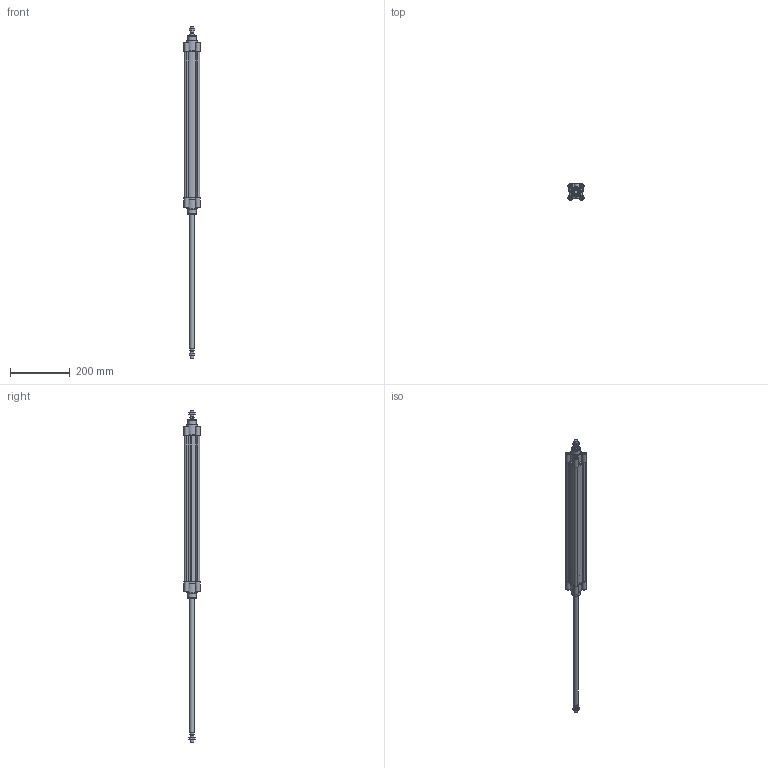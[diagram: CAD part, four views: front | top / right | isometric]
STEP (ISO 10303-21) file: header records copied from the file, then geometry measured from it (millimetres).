
FILE_DESCRIPTION((''),'2;1');
FILE_NAME('I:\Area Tecnica\Disegni\VARIE-3D\Componenti\ECOLIGHT\02\stp\139#_40_0450_02.iam.stp','2012-01-28T09:39:18',(''),(''),'Autodesk Inventor 2012','Autodesk Inventor 2012','');
FILE_SCHEMA(('AUTOMOTIVE_DESIGN { 1 0 10303 214 1 1 1 1 }'));
Length unit declared in the file: millimetre
Products named in the file (5): 139#_40_0450_02; CPL040_004-450; CPL040-001-01; CPL_40SP_0450; 1320_40_18F
Assembly tree (6 placements, depth 2):
  139#_40_0450_02
    CPL040_004-450
    CPL040-001-01  x2
    CPL_40SP_0450
    1320_40_18F  x2
Bounding box: 54 x 54 x 1113 mm (x, y, z)
Volume: 719059.4 mm3; surface area: 363175 mm2
Topology: 6 solids, 6 shells, 351 faces, 860 edges, 564 vertices
Faces by surface type: plane 211, cylinder 98, cone 40, torus 2
Full cylindrical faces by diameter (mm): 5 x8, 5.5 x4, 8 x2, 10 x8, 10.5 x10, 10.8 x2, 11.6 x2, 12 x2, 15.5 x2, 16 x4, 30 x2, 35 x2, 40 x4
Entity records: 7104 total; most frequent: CARTESIAN_POINT 1295, DIRECTION 1162, ORIENTED_EDGE 1084, EDGE_CURVE 542, AXIS2_PLACEMENT_3D 413, VERTEX_POINT 380, VECTOR 336, LINE 336
